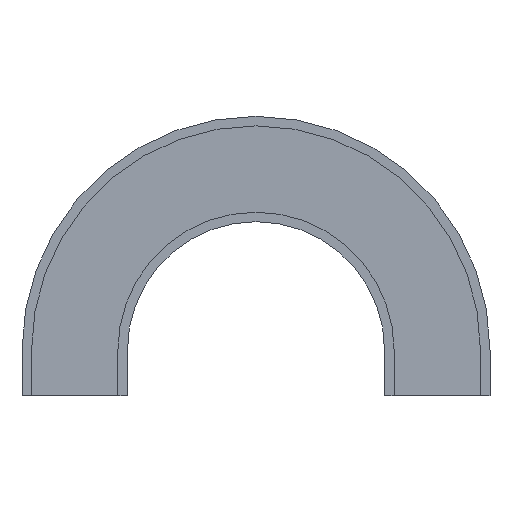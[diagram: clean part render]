
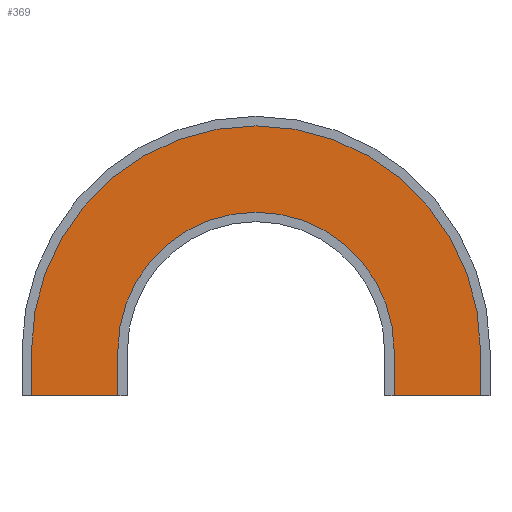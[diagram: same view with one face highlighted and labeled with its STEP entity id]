
A CAD part, front view. The second image highlights one B-rep face of the part: STEP entity #369.
In plain terms, the highlighted planar face has unit normal (0, -1, 0).
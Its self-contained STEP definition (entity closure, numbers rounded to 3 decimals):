
#1 = EDGE_CURVE ( 'NONE', #91, #94, #681, .T. ) ;
#11 = EDGE_CURVE ( 'NONE', #98, #96, #698, .T. ) ;
#41 = EDGE_CURVE ( 'NONE', #101, #84, #751, .T. ) ;
#84 = VERTEX_POINT ( 'NONE', #1856 ) ;
#91 = VERTEX_POINT ( 'NONE', #1863 ) ;
#94 = VERTEX_POINT ( 'NONE', #1866 ) ;
#95 = VERTEX_POINT ( 'NONE', #1867 ) ;
#96 = VERTEX_POINT ( 'NONE', #1868 ) ;
#97 = VERTEX_POINT ( 'NONE', #1869 ) ;
#98 = VERTEX_POINT ( 'NONE', #1870 ) ;
#101 = VERTEX_POINT ( 'NONE', #1873 ) ;
#171 = ORIENTED_EDGE ( 'NONE', *, *, #1693, .F. ) ;
#172 = ORIENTED_EDGE ( 'NONE', *, *, #1692, .F. ) ;
#173 = ORIENTED_EDGE ( 'NONE', *, *, #11, .F. ) ;
#174 = ORIENTED_EDGE ( 'NONE', *, *, #447, .T. ) ;
#175 = ORIENTED_EDGE ( 'NONE', *, *, #1, .T. ) ;
#176 = ORIENTED_EDGE ( 'NONE', *, *, #446, .F. ) ;
#177 = ORIENTED_EDGE ( 'NONE', *, *, #1691, .F. ) ;
#178 = ORIENTED_EDGE ( 'NONE', *, *, #41, .T. ) ;
#369 = ADVANCED_FACE ( 'NONE', ( #808 ), #860, .F. ) ;
#446 = EDGE_CURVE ( 'NONE', #95, #94, #1253, .T. ) ;
#447 = EDGE_CURVE ( 'NONE', #98, #91, #1252, .T. ) ;
#506 = AXIS2_PLACEMENT_3D ( 'NONE', #1699, #1696, #1702 ) ;
#681 = CIRCLE ( 'NONE', #506, 304.75 ) ;
#698 = LINE ( 'NONE', #1717, #700 ) ;
#700 = VECTOR ( 'NONE', #1712, 1000. ) ;
#751 = LINE ( 'NONE', #1786, #754 ) ;
#754 = VECTOR ( 'NONE', #1787, 1000. ) ;
#808 = FACE_OUTER_BOUND ( 'NONE', #1658, .T. ) ;
#858 = CARTESIAN_POINT ( 'NONE',  ( -304.75, -68., 0. ) ) ;
#860 = PLANE ( 'NONE',  #1076 ) ;
#862 = DIRECTION ( 'NONE',  ( 0., 1., 0. ) ) ;
#863 = DIRECTION ( 'NONE',  ( -1., 0., 0. ) ) ;
#1076 = AXIS2_PLACEMENT_3D ( 'NONE', #858, #862, #863 ) ;
#1135 = AXIS2_PLACEMENT_3D ( 'NONE', #1587, #1588, #1589 ) ;
#1252 = LINE ( 'NONE', #1412, #1258 ) ;
#1253 = LINE ( 'NONE', #1417, #1256 ) ;
#1256 = VECTOR ( 'NONE', #1419, 1000. ) ;
#1258 = VECTOR ( 'NONE', #1420, 1000. ) ;
#1379 = LINE ( 'NONE', #1579, #1387 ) ;
#1383 = VECTOR ( 'NONE', #1585, 1000. ) ;
#1385 = LINE ( 'NONE', #1584, #1383 ) ;
#1386 = CIRCLE ( 'NONE', #1135, 495.25 ) ;
#1387 = VECTOR ( 'NONE', #1586, 1000. ) ;
#1412 = CARTESIAN_POINT ( 'NONE',  ( -304.75, -68., -100. ) ) ;
#1417 = CARTESIAN_POINT ( 'NONE',  ( 304.75, -68., -100. ) ) ;
#1419 = DIRECTION ( 'NONE',  ( 0., 0., 1. ) ) ;
#1420 = DIRECTION ( 'NONE',  ( 0., 0., 1. ) ) ;
#1579 = CARTESIAN_POINT ( 'NONE',  ( -495.25, -68., -100. ) ) ;
#1584 = CARTESIAN_POINT ( 'NONE',  ( 0., -68., -100. ) ) ;
#1585 = DIRECTION ( 'NONE',  ( -1., 0., 0. ) ) ;
#1586 = DIRECTION ( 'NONE',  ( 0., 0., 1. ) ) ;
#1587 = CARTESIAN_POINT ( 'NONE',  ( 0., -68., 0. ) ) ;
#1588 = DIRECTION ( 'NONE',  ( 0., 1., 0. ) ) ;
#1589 = DIRECTION ( 'NONE',  ( -1., 0., 0. ) ) ;
#1658 = EDGE_LOOP ( 'NONE', ( #171, #172, #173, #174, #175, #176, #177, #178 ) ) ;
#1691 = EDGE_CURVE ( 'NONE', #101, #95, #1385, .T. ) ;
#1692 = EDGE_CURVE ( 'NONE', #96, #97, #1379, .T. ) ;
#1693 = EDGE_CURVE ( 'NONE', #97, #84, #1386, .T. ) ;
#1696 = DIRECTION ( 'NONE',  ( 0., 1., 0. ) ) ;
#1699 = CARTESIAN_POINT ( 'NONE',  ( 0., -68., 0. ) ) ;
#1702 = DIRECTION ( 'NONE',  ( -1., 0., 0. ) ) ;
#1712 = DIRECTION ( 'NONE',  ( -1., 0., 0. ) ) ;
#1717 = CARTESIAN_POINT ( 'NONE',  ( 0., -68., -100. ) ) ;
#1786 = CARTESIAN_POINT ( 'NONE',  ( 495.25, -68., -100. ) ) ;
#1787 = DIRECTION ( 'NONE',  ( 0., 0., 1. ) ) ;
#1856 = CARTESIAN_POINT ( 'NONE',  ( 495.25, -68., 0. ) ) ;
#1863 = CARTESIAN_POINT ( 'NONE',  ( -304.75, -68., 0. ) ) ;
#1866 = CARTESIAN_POINT ( 'NONE',  ( 304.75, -68., 0. ) ) ;
#1867 = CARTESIAN_POINT ( 'NONE',  ( 304.75, -68., -100. ) ) ;
#1868 = CARTESIAN_POINT ( 'NONE',  ( -495.25, -68., -100. ) ) ;
#1869 = CARTESIAN_POINT ( 'NONE',  ( -495.25, -68., 0. ) ) ;
#1870 = CARTESIAN_POINT ( 'NONE',  ( -304.75, -68., -100. ) ) ;
#1873 = CARTESIAN_POINT ( 'NONE',  ( 495.25, -68., -100. ) ) ;
